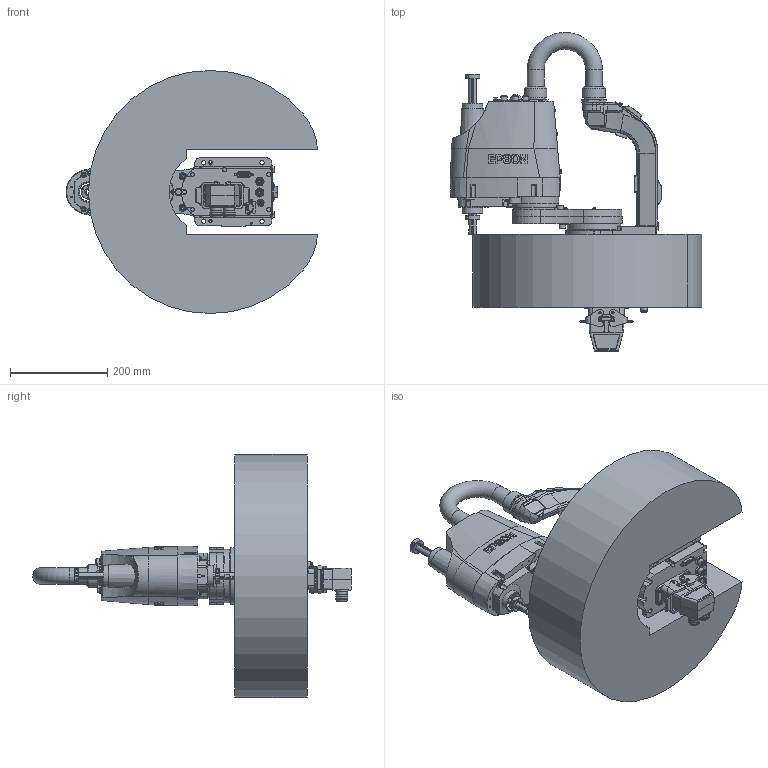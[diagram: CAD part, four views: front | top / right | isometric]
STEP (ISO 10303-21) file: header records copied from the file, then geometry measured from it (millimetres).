
FILE_DESCRIPTION( ( 'STEP AP214' ), '1' );
FILE_NAME( 'C:/Users/9607552/Desktop/GX4-A/GX4-A251SB-AW.stp', '2023-04-07T04:34:17', ( '' ), ( '' ), ' ', 'PARTsolutions', ' ' );
FILE_SCHEMA( ( 'AUTOMOTIVE_DESIGN { 1 0 10303 214 1 1 1 1 }' ) );
Length unit declared in the file: millimetre
Products named in the file (8): GX4-A251SB-AW; _A251SBbasesb; _A251S_J1_ARM; _A251S-a; _A251S_CONDUIT; _A251S; _Angle; _GX4-21_WS
Assembly tree (7 placements, depth 2):
  GX4-A251SB-AW
    _A251SBbasesb
    _A251S_J1_ARM
    _A251S-a
    _A251S_CONDUIT
    _A251S
    _Angle
    _GX4-21_WS
Bounding box: 517.13 x 656.2 x 500 mm (x, y, z)
Volume: 29620028 mm3; surface area: 1307429.6 mm2
Topology: 7 solids, 7 shells, 3909 faces, 9668 edges, 6310 vertices
Faces by surface type: plane 2295, cylinder 1101, cone 319, torus 107, bspline 86, sphere 1
Full cylindrical faces by diameter (mm): 1 x30, 1.13 x55, 1.18 x55, 2.459 x4, 2.5 x16, 3 x48, 3.2 x4, 3.242 x1, 3.3 x39, 3.4 x32, 3.5 x12, 4 x3, 4.5 x16, 4.8 x4, 4.917 x2, 5.34 x8, 5.4 x14, 5.5 x26, 5.6 x2, 5.68 x4, 6 x21, 6.5 x12, 6.7 x4, 6.8 x4, 6.98 x4, 7 x37, 7.1 x4, 8 x21, 8.2 x8, 8.98 x2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
Entity records: 148270 total; most frequent: CARTESIAN_POINT 28768, ORIENTED_EDGE 17548, DIRECTION 17452, EDGE_CURVE 8774, AXIS2_PLACEMENT_3D 6587, VERTEX_POINT 6222, EDGE_LOOP 5305, FACE_OUTER_BOUND 4535
